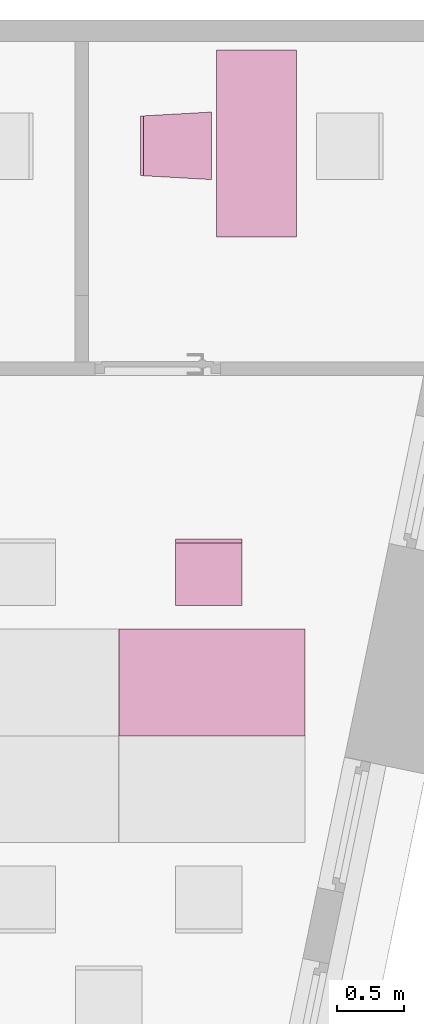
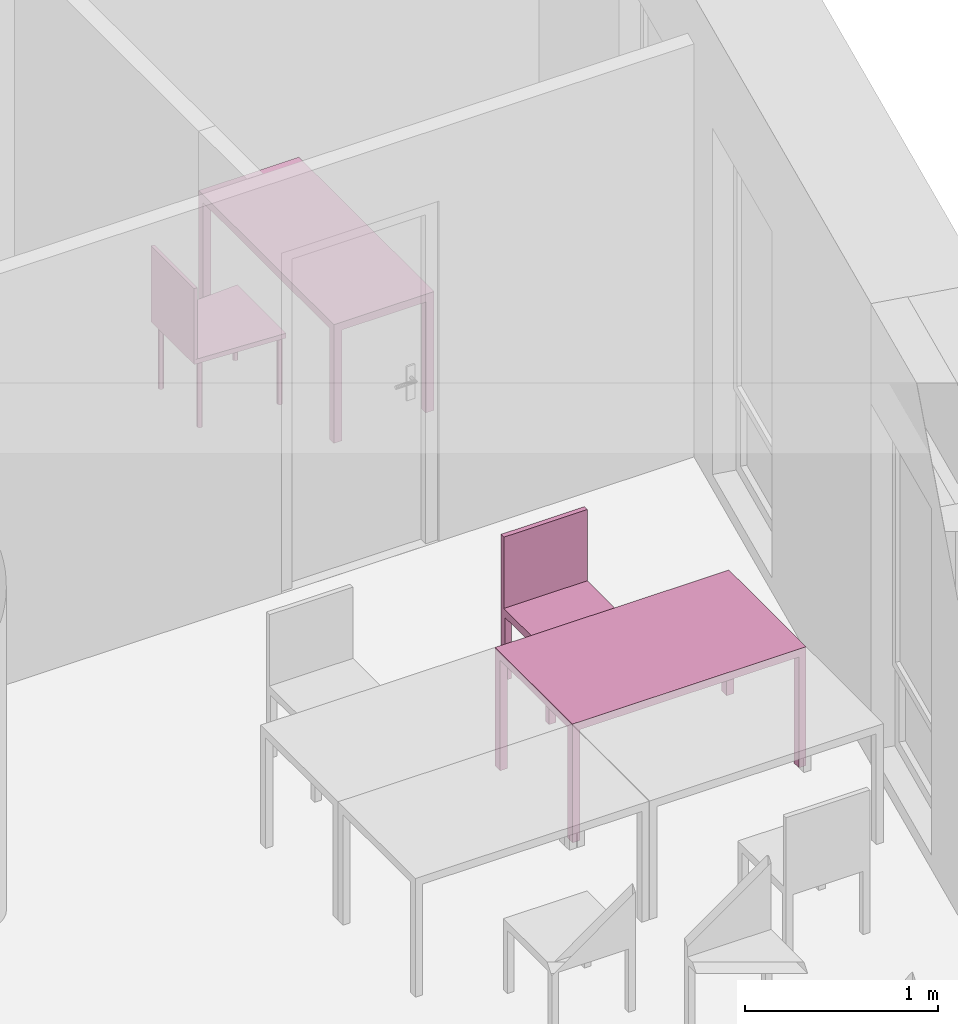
"""IFC4 building model written with IfcOpenShell, lengths in metres."""

from ifc_helpers import new_model, entity, si_unit, converted_unit, derived_unit, frame, origin, place, context, subcontext, project, spatial, faceted_brep, element, save


model = new_model("IFC4")

# Units and contexts
model_context = context("Model", 3, precision=1e-05, world=origin())
body_context = subcontext(model_context, "Body", "Model", "MODEL_VIEW")
ifc_project = project(units=[si_unit("LENGTHUNIT", "METRE"), si_unit("AREAUNIT", "SQUARE_METRE"), si_unit("VOLUMEUNIT", "CUBIC_METRE"), si_unit("MASSUNIT", "GRAM", prefix="KILO"), converted_unit("PLANEANGLEUNIT", "DEGREE", entity("IfcPlaneAngleMeasure", 0.0174532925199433), si_unit("PLANEANGLEUNIT", "RADIAN"), dimensions=[0, 0, 0, 0, 0, 0, 0]), derived_unit("THERMALTRANSMITTANCEUNIT", [(si_unit("POWERUNIT", "WATT"), 1), (si_unit("THERMODYNAMICTEMPERATUREUNIT", "KELVIN"), -1), (si_unit("LENGTHUNIT", "METRE"), -2)]), derived_unit("VOLUMETRICFLOWRATEUNIT", [(si_unit("LENGTHUNIT", "METRE"), 3), (converted_unit("TIMEUNIT", "hour", entity("IfcTimeMeasure", 3600.0), si_unit("TIMEUNIT", "SECOND"), dimensions=[0, 0, 1, 0, 0, 0, 0]), -1), (si_unit("LENGTHUNIT", "METRE"), -1)])], contexts=[model_context])

# Building, storeys
building_placement = place(None, origin())
building = spatial("IfcBuilding", under=ifc_project, at=building_placement, Name="HABITATGE PLURIFAMILIAR", CompositionType="ELEMENT")
storey_1_placement = place(building_placement, frame((0.0, 0.0, 18.29)))
storey_1 = spatial("IfcBuildingStorey", under=building, at=storey_1_placement, Name="PLANTA CINQUENA", CompositionType="ELEMENT", Elevation=18.29)
storey_2_placement = place(storey_1_placement, frame((0.0, 0.0, 15.28)))
storey_2 = spatial("IfcBuildingStorey", under=storey_1, at=storey_2_placement, Name="NOU", CompositionType="PARTIAL")

# Furniture
furniture_1_placement = place(storey_2_placement, frame((424.00800410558, 22.8623892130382, -15.28)))
element("IfcFurniture", 1, at=furniture_1_placement, inside=storey_2, Name="Taula 140X80_P5", context=body_context, shape_type="Brep", body=[
    faceted_brep([(0.04375, 0.05, 0.0), (0.0, 0.05, 0.0), (0.0, 0.0, 0.0), (0.04375, 0.0, 0.0), (0.04375, 0.0, 0.7), (0.0, 0.0, 0.7), (0.0, 0.05, 0.7), (0.04375, 0.05, 0.7)], [[[0, 1, 2, 3]], [[4, 5, 6, 7]], [[3, 4, 7, 0]], [[2, 5, 4, 3]], [[1, 6, 5, 2]], [[0, 7, 6, 1]]], orient=[[False], [False], [False], [False], [False], [False]]),
    faceted_brep([(0.04375, 0.800069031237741, 0.0), (0.0, 0.800069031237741, 0.0), (0.0, 0.750069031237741, 0.0), (0.04375, 0.750069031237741, 0.0), (0.04375, 0.750069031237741, 0.7), (0.0, 0.750069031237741, 0.7), (0.0, 0.800069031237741, 0.7), (0.04375, 0.800069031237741, 0.7)], [[[0, 1, 2, 3]], [[4, 5, 6, 7]], [[3, 4, 7, 0]], [[2, 5, 4, 3]], [[1, 6, 5, 2]], [[0, 7, 6, 1]]], orient=[[False], [False], [False], [False], [False], [False]]),
    faceted_brep([(1.39732768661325, 0.800069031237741, 0.7), (0.0, 0.800069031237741, 0.7), (0.0, 0.0, 0.7), (1.39732768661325, 0.0, 0.7), (1.39732768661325, 0.0, 0.75), (0.0, 0.0, 0.75), (0.0, 0.800069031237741, 0.75), (1.39732768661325, 0.800069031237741, 0.75)], [[[0, 1, 2, 3]], [[4, 5, 6, 7]], [[3, 4, 7, 0]], [[2, 5, 4, 3]], [[1, 6, 5, 2]], [[0, 7, 6, 1]]], orient=[[False], [False], [False], [False], [False], [False]]),
    faceted_brep([(1.39732768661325, 0.05, 0.0), (1.35357768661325, 0.05, 0.0), (1.35357768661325, 0.0, 0.0), (1.39732768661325, 0.0, 0.0), (1.39732768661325, 0.0, 0.7), (1.35357768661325, 0.0, 0.7), (1.35357768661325, 0.05, 0.7), (1.39732768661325, 0.05, 0.7)], [[[0, 1, 2, 3]], [[4, 5, 6, 7]], [[3, 4, 7, 0]], [[2, 5, 4, 3]], [[1, 6, 5, 2]], [[0, 7, 6, 1]]], orient=[[False], [False], [False], [False], [False], [False]]),
    faceted_brep([(1.39732768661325, 0.800069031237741, 0.0), (1.35357768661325, 0.800069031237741, 0.0), (1.35357768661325, 0.750069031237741, 0.0), (1.39732768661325, 0.750069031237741, 0.0), (1.39732768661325, 0.750069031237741, 0.7), (1.35357768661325, 0.750069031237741, 0.7), (1.35357768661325, 0.800069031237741, 0.7), (1.39732768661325, 0.800069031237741, 0.7)], [[[0, 1, 2, 3]], [[4, 5, 6, 7]], [[3, 4, 7, 0]], [[2, 5, 4, 3]], [[1, 6, 5, 2]], [[0, 7, 6, 1]]], orient=[[False], [False], [False], [False], [False], [False]]),
])
furniture_2_placement = place(storey_2_placement, frame((424.433033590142, 23.8391435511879, -15.2746385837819)))
element("IfcFurniture", 2, at=furniture_2_placement, inside=storey_2, Name="Cadira d'Oficina_P5", context=body_context, shape_type="Brep", body=[
    faceted_brep([(0.0, 0.0, 0.4), (0.5, 0.0, 0.4), (0.5, 0.500000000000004, 0.4), (0.0, 0.5, 0.4), (0.0, 0.5, 0.45), (0.5, 0.500000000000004, 0.45), (0.5, 0.0, 0.45), (0.0, 0.0, 0.45)], [[[0, 1, 2, 3]], [[4, 5, 6, 7]], [[3, 4, 7, 0]], [[2, 5, 4, 3]], [[1, 6, 5, 2]], [[0, 7, 6, 1]]], orient=[[False], [False], [False], [False], [False], [False]]),
    faceted_brep([(0.5, 0.460000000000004, 0.0), (0.5, 0.500000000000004, 0.0), (0.46, 0.5, 0.0), (0.46, 0.46, 0.0), (0.46, 0.46, 0.4), (0.46, 0.5, 0.4), (0.5, 0.500000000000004, 0.4), (0.5, 0.460000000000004, 0.4)], [[[0, 1, 2, 3]], [[4, 5, 6, 7]], [[3, 4, 7, 0]], [[2, 5, 4, 3]], [[1, 6, 5, 2]], [[0, 7, 6, 1]]], orient=[[False], [False], [False], [False], [False], [False]]),
    faceted_brep([(0.5, 0.0, 0.0), (0.5, 0.0400000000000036, 0.0), (0.46, 0.04, 0.0), (0.46, 0.0, 0.0), (0.46, 0.0, 0.4), (0.46, 0.04, 0.4), (0.5, 0.0400000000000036, 0.4), (0.5, 0.0, 0.4)], [[[0, 1, 2, 3]], [[4, 5, 6, 7]], [[3, 4, 7, 0]], [[2, 5, 4, 3]], [[1, 6, 5, 2]], [[0, 7, 6, 1]]], orient=[[False], [False], [False], [False], [False], [False]]),
    faceted_brep([(0.04, 0.46, 0.0), (0.04, 0.5, 0.0), (0.0, 0.5, 0.0), (0.0, 0.46, 0.0), (0.0, 0.46, 0.4), (0.0, 0.5, 0.4), (0.04, 0.5, 0.4), (0.04, 0.46, 0.4)], [[[0, 1, 2, 3]], [[4, 5, 6, 7]], [[3, 4, 7, 0]], [[2, 5, 4, 3]], [[1, 6, 5, 2]], [[0, 7, 6, 1]]], orient=[[False], [False], [False], [False], [False], [False]]),
    faceted_brep([(0.04, 0.0, 0.0), (0.04, 0.04, 0.0), (0.0, 0.04, 0.0), (0.0, 0.0, 0.0), (0.0, 0.0, 0.4), (0.0, 0.04, 0.4), (0.04, 0.04, 0.4), (0.04, 0.0, 0.4)], [[[0, 1, 2, 3]], [[4, 5, 6, 7]], [[3, 4, 7, 0]], [[2, 5, 4, 3]], [[1, 6, 5, 2]], [[0, 7, 6, 1]]], orient=[[False], [False], [False], [False], [False], [False]]),
    faceted_brep([(0.5, 0.470000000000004, 0.45), (0.5, 0.500000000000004, 0.45), (0.0, 0.5, 0.45), (0.0, 0.47, 0.45), (0.0, 0.47, 0.9), (0.0, 0.5, 0.9), (0.5, 0.500000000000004, 0.9), (0.5, 0.470000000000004, 0.9)], [[[0, 1, 2, 3]], [[4, 5, 6, 7]], [[3, 4, 7, 0]], [[2, 5, 4, 3]], [[1, 6, 5, 2]], [[0, 7, 6, 1]]], orient=[[False], [False], [False], [False], [False], [False]]),
])
furniture_3_placement = place(storey_2_placement, frame((424.741021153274, 26.6019788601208, -15.28)))
element("IfcFurniture", 3, at=furniture_3_placement, inside=storey_2, Name="Taula 140X60_P5", context=body_context, shape_type="Brep", body=[
    faceted_brep([(0.05, 1.35625000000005, 0.0), (0.05, 1.40000000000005, 0.0), (0.0, 1.40000000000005, 0.0), (0.0, 1.35625000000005, 0.0), (0.0, 1.35625000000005, 0.7), (0.0, 1.40000000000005, 0.7), (0.05, 1.40000000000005, 0.7), (0.05, 1.35625000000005, 0.7)], [[[0, 1, 2, 3]], [[4, 5, 6, 7]], [[3, 4, 7, 0]], [[2, 5, 4, 3]], [[1, 6, 5, 2]], [[0, 7, 6, 1]]], orient=[[False], [False], [False], [False], [False], [False]]),
    faceted_brep([(0.600000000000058, 0.0, 0.7), (0.600000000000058, 1.4, 0.7), (0.0, 1.40000000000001, 0.7), (0.0, 0.0, 0.7), (0.0, 0.0, 0.75), (0.0, 1.40000000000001, 0.75), (0.600000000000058, 1.4, 0.75), (0.600000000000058, 0.0, 0.75)], [[[0, 1, 2, 3]], [[4, 5, 6, 7]], [[3, 4, 7, 0]], [[2, 5, 4, 3]], [[1, 6, 5, 2]], [[0, 7, 6, 1]]], orient=[[False], [False], [False], [False], [False], [False]]),
    faceted_brep([(0.0500000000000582, 0.0, 0.0), (0.0500000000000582, 0.0437500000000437, 0.0), (0.0, 0.0437500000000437, 0.0), (0.0, 0.0, 0.0), (0.0, 0.0, 0.7), (0.0, 0.0437500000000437, 0.7), (0.0500000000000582, 0.0437500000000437, 0.7), (0.0500000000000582, 0.0, 0.7)], [[[0, 1, 2, 3]], [[4, 5, 6, 7]], [[3, 4, 7, 0]], [[2, 5, 4, 3]], [[1, 6, 5, 2]], [[0, 7, 6, 1]]], orient=[[False], [False], [False], [False], [False], [False]]),
    faceted_brep([(0.600000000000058, 1.35625000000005, 0.0), (0.600000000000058, 1.40000000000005, 0.0), (0.550000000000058, 1.40000000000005, 0.0), (0.550000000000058, 1.35625000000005, 0.0), (0.550000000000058, 1.35625000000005, 0.7), (0.550000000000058, 1.40000000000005, 0.7), (0.600000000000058, 1.40000000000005, 0.7), (0.600000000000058, 1.35625000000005, 0.7)], [[[0, 1, 2, 3]], [[4, 5, 6, 7]], [[3, 4, 7, 0]], [[2, 5, 4, 3]], [[1, 6, 5, 2]], [[0, 7, 6, 1]]], orient=[[False], [False], [False], [False], [False], [False]]),
    faceted_brep([(0.600000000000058, 0.0, 0.0), (0.600000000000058, 0.0437500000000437, 0.0), (0.550000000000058, 0.0437500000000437, 0.0), (0.550000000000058, 0.0, 0.0), (0.550000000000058, 0.0, 0.7), (0.550000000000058, 0.0437500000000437, 0.7), (0.600000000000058, 0.0437500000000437, 0.7), (0.600000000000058, 0.0, 0.7)], [[[0, 1, 2, 3]], [[4, 5, 6, 7]], [[3, 4, 7, 0]], [[2, 5, 4, 3]], [[1, 6, 5, 2]], [[0, 7, 6, 1]]], orient=[[False], [False], [False], [False], [False], [False]]),
])
furniture_4_placement = place(storey_2_placement, frame((424.171553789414, 27.0320258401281, -15.28)))
element("IfcFurniture", 4, at=furniture_4_placement, inside=storey_2, Name="Cadira confident_P5", context=body_context, shape_type="Brep", body=[
    faceted_brep([(0.522448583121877, 0.0242257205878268, 0.0), (0.522221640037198, 0.0268196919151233, 0.0), (0.521547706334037, 0.0293348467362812, 0.0), (0.520447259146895, 0.0316947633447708, 0.0), (0.51895373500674, 0.0338277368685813, 0.0), (0.517112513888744, 0.0356689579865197, 0.0), (0.514979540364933, 0.0371624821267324, 0.0), (0.512619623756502, 0.0382629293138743, 0.0), (0.510104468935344, 0.0389368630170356, 0.0), (0.507510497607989, 0.0391638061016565, 0.0), (0.504916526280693, 0.0389368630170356, 0.0), (0.502401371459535, 0.0382629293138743, 0.0), (0.500041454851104, 0.0371624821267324, 0.0), (0.497908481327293, 0.0356689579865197, 0.0), (0.496067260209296, 0.0338277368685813, 0.0), (0.494573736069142, 0.0316947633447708, 0.0), (0.493473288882, 0.0293348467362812, 0.0), (0.492799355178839, 0.0268196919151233, 0.0), (0.49257241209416, 0.0242257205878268, 0.0), (0.492799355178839, 0.0216317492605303, 0.0), (0.493473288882, 0.0191165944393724, 0.0), (0.494573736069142, 0.0167566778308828, 0.0), (0.496067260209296, 0.0146237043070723, 0.0), (0.497908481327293, 0.0127824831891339, 0.0), (0.500041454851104, 0.0112889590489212, 0.0), (0.502401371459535, 0.0101885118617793, 0.0), (0.504916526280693, 0.00951457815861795, 0.0), (0.507510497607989, 0.00928763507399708, 0.0), (0.510104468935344, 0.00951457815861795, 0.0), (0.512619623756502, 0.0101885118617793, 0.0), (0.514979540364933, 0.0112889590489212, 0.0), (0.517112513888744, 0.0127824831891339, 0.0), (0.51895373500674, 0.0146237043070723, 0.0), (0.520447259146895, 0.0167566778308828, 0.0), (0.521547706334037, 0.0191165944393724, 0.0), (0.522221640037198, 0.0216317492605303, 0.0), (0.522448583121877, 0.0242257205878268, 0.448281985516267), (0.522221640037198, 0.0216317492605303, 0.448281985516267), (0.521547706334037, 0.0191165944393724, 0.448281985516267), (0.520447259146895, 0.0167566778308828, 0.448281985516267), (0.51895373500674, 0.0146237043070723, 0.448281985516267), (0.517112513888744, 0.0127824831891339, 0.448281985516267), (0.514979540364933, 0.0112889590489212, 0.448281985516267), (0.512619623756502, 0.0101885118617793, 0.448281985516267), (0.510104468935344, 0.00951457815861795, 0.448281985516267), (0.507510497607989, 0.00928763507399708, 0.448281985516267), (0.504916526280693, 0.00951457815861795, 0.448281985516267), (0.502401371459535, 0.0101885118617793, 0.448281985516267), (0.500041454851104, 0.0112889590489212, 0.448281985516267), (0.497908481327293, 0.0127824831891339, 0.448281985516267), (0.496067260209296, 0.0146237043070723, 0.448281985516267), (0.494573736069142, 0.0167566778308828, 0.448281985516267), (0.493473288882, 0.0191165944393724, 0.448281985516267), (0.492799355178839, 0.0216317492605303, 0.448281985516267), (0.49257241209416, 0.0242257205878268, 0.448281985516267), (0.492799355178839, 0.0268196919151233, 0.448281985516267), (0.493473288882, 0.0293348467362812, 0.448281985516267), (0.494573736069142, 0.0316947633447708, 0.448281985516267), (0.496067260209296, 0.0338277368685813, 0.448281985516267), (0.497908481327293, 0.0356689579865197, 0.448281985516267), (0.500041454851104, 0.0371624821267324, 0.448281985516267), (0.502401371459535, 0.0382629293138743, 0.448281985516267), (0.504916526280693, 0.0389368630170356, 0.448281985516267), (0.507510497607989, 0.0391638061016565, 0.448281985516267), (0.510104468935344, 0.0389368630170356, 0.448281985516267), (0.512619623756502, 0.0382629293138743, 0.448281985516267), (0.514979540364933, 0.0371624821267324, 0.448281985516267), (0.517112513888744, 0.0356689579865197, 0.448281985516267), (0.51895373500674, 0.0338277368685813, 0.448281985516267), (0.520447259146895, 0.0316947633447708, 0.448281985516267), (0.521547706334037, 0.0293348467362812, 0.448281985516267), (0.522221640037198, 0.0268196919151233, 0.448281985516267)], [[[0, 1, 2, 3, 4, 5, 6, 7, 8, 9, 10, 11, 12, 13, 14, 15, 16, 17, 18, 19, 20, 21, 22, 23, 24, 25, 26, 27, 28, 29, 30, 31, 32, 33, 34, 35]], [[36, 37, 38, 39, 40, 41, 42, 43, 44, 45, 46, 47, 48, 49, 50, 51, 52, 53, 54, 55, 56, 57, 58, 59, 60, 61, 62, 63, 64, 65, 66, 67, 68, 69, 70, 71]], [[1, 0, 36, 71]], [[2, 1, 71, 70]], [[3, 2, 70, 69]], [[4, 3, 69, 68]], [[5, 4, 68, 67]], [[6, 5, 67, 66]], [[7, 6, 66, 65]], [[8, 7, 65, 64]], [[9, 8, 64, 63]], [[10, 9, 63, 62]], [[11, 10, 62, 61]], [[12, 11, 61, 60]], [[13, 12, 60, 59]], [[14, 13, 59, 58]], [[15, 14, 58, 57]], [[16, 15, 57, 56]], [[17, 16, 56, 55]], [[18, 17, 55, 54]], [[19, 18, 54, 53]], [[20, 19, 53, 52]], [[21, 20, 52, 51]], [[22, 21, 51, 50]], [[23, 22, 50, 49]], [[24, 23, 49, 48]], [[25, 24, 48, 47]], [[26, 25, 47, 46]], [[27, 26, 46, 45]], [[28, 27, 45, 44]], [[29, 28, 44, 43]], [[30, 29, 43, 42]], [[31, 30, 42, 41]], [[32, 31, 41, 40]], [[33, 32, 40, 39]], [[34, 33, 39, 38]], [[35, 34, 38, 37]], [[0, 35, 37, 36]]], orient=[[False], [False], [False], [False], [False], [False], [False], [False], [False], [False], [False], [False], [False], [False], [False], [False], [False], [False], [False], [False], [False], [False], [False], [False], [False], [False], [False], [False], [False], [False], [False], [False], [False], [False], [False], [False], [False], [False]]),
    faceted_brep([(0.0600415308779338, 0.0518637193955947, 0.0), (0.0598145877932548, 0.0544576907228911, 0.0), (0.0591406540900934, 0.056972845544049, 0.0), (0.0580402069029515, 0.0593327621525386, 0.0), (0.056546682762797, 0.0614657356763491, 0.0), (0.0547054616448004, 0.0633069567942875, 0.0), (0.0525724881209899, 0.0648004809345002, 0.0), (0.0502125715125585, 0.0659009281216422, 0.0), (0.0476974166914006, 0.0665748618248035, 0.0), (0.0451034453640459, 0.0668018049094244, 0.0), (0.0425094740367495, 0.0665748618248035, 0.0), (0.0399943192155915, 0.0659009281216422, 0.0), (0.0376344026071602, 0.0648004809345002, 0.0), (0.0355014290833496, 0.0633069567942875, 0.0), (0.033660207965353, 0.0614657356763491, 0.0), (0.0321666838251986, 0.0593327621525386, 0.0), (0.0310662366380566, 0.056972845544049, 0.0), (0.0303923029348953, 0.0544576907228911, 0.0), (0.0301653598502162, 0.0518637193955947, 0.0), (0.0303923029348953, 0.0492697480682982, 0.0), (0.0310662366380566, 0.0467545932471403, 0.0), (0.0321666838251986, 0.0443946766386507, 0.0), (0.033660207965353, 0.0422617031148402, 0.0), (0.0355014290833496, 0.0404204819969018, 0.0), (0.0376344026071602, 0.0389269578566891, 0.0), (0.0399943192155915, 0.0378265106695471, 0.0), (0.0425094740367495, 0.0371525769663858, 0.0), (0.0451034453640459, 0.036925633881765, 0.0), (0.0476974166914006, 0.0371525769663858, 0.0), (0.0502125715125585, 0.0378265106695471, 0.0), (0.0525724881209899, 0.0389269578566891, 0.0), (0.0547054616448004, 0.0404204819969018, 0.0), (0.056546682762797, 0.0422617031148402, 0.0), (0.0580402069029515, 0.0443946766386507, 0.0), (0.0591406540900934, 0.0467545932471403, 0.0), (0.0598145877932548, 0.0492697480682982, 0.0), (0.0600415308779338, 0.0518637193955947, 0.448281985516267), (0.0598145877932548, 0.0492697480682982, 0.448281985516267), (0.0591406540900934, 0.0467545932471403, 0.448281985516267), (0.0580402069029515, 0.0443946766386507, 0.448281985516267), (0.056546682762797, 0.0422617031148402, 0.448281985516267), (0.0547054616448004, 0.0404204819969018, 0.448281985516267), (0.0525724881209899, 0.0389269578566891, 0.448281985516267), (0.0502125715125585, 0.0378265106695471, 0.448281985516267), (0.0476974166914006, 0.0371525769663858, 0.448281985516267), (0.0451034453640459, 0.036925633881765, 0.448281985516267), (0.0425094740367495, 0.0371525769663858, 0.448281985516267), (0.0399943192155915, 0.0378265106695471, 0.448281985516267), (0.0376344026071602, 0.0389269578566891, 0.448281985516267), (0.0355014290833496, 0.0404204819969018, 0.448281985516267), (0.033660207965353, 0.0422617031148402, 0.448281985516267), (0.0321666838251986, 0.0443946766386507, 0.448281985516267), (0.0310662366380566, 0.0467545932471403, 0.448281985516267), (0.0303923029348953, 0.0492697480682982, 0.448281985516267), (0.0301653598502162, 0.0518637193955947, 0.448281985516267), (0.0303923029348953, 0.0544576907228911, 0.448281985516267), (0.0310662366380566, 0.056972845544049, 0.448281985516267), (0.0321666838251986, 0.0593327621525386, 0.448281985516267), (0.033660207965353, 0.0614657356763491, 0.448281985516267), (0.0355014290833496, 0.0633069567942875, 0.448281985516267), (0.0376344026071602, 0.0648004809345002, 0.448281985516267), (0.0399943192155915, 0.0659009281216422, 0.448281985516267), (0.0425094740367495, 0.0665748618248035, 0.448281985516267), (0.0451034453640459, 0.0668018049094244, 0.448281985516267), (0.0476974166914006, 0.0665748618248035, 0.448281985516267), (0.0502125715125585, 0.0659009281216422, 0.448281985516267), (0.0525724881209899, 0.0648004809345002, 0.448281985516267), (0.0547054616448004, 0.0633069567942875, 0.448281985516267), (0.056546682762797, 0.0614657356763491, 0.448281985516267), (0.0580402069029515, 0.0593327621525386, 0.448281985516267), (0.0591406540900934, 0.056972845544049, 0.448281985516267), (0.0598145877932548, 0.0544576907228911, 0.448281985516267)], [[[0, 1, 2, 3, 4, 5, 6, 7, 8, 9, 10, 11, 12, 13, 14, 15, 16, 17, 18, 19, 20, 21, 22, 23, 24, 25, 26, 27, 28, 29, 30, 31, 32, 33, 34, 35]], [[36, 37, 38, 39, 40, 41, 42, 43, 44, 45, 46, 47, 48, 49, 50, 51, 52, 53, 54, 55, 56, 57, 58, 59, 60, 61, 62, 63, 64, 65, 66, 67, 68, 69, 70, 71]], [[1, 0, 36, 71]], [[2, 1, 71, 70]], [[3, 2, 70, 69]], [[4, 3, 69, 68]], [[5, 4, 68, 67]], [[6, 5, 67, 66]], [[7, 6, 66, 65]], [[8, 7, 65, 64]], [[9, 8, 64, 63]], [[10, 9, 63, 62]], [[11, 10, 62, 61]], [[12, 11, 61, 60]], [[13, 12, 60, 59]], [[14, 13, 59, 58]], [[15, 14, 58, 57]], [[16, 15, 57, 56]], [[17, 16, 56, 55]], [[18, 17, 55, 54]], [[19, 18, 54, 53]], [[20, 19, 53, 52]], [[21, 20, 52, 51]], [[22, 21, 51, 50]], [[23, 22, 50, 49]], [[24, 23, 49, 48]], [[25, 24, 48, 47]], [[26, 25, 47, 46]], [[27, 26, 46, 45]], [[28, 27, 45, 44]], [[29, 28, 44, 43]], [[30, 29, 43, 42]], [[31, 30, 42, 41]], [[32, 31, 41, 40]], [[33, 32, 40, 39]], [[34, 33, 39, 38]], [[35, 34, 38, 37]], [[0, 35, 37, 36]]], orient=[[False], [False], [False], [False], [False], [False], [False], [False], [False], [False], [False], [False], [False], [False], [False], [False], [False], [False], [False], [False], [False], [False], [False], [False], [False], [False], [False], [False], [False], [False], [False], [False], [False], [False], [False], [False], [False], [False]]),
    faceted_brep([(0.522448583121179, 0.484225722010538, 0.0), (0.5222216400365, 0.486819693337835, 0.0), (0.521547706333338, 0.489334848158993, 0.0), (0.520447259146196, 0.491694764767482, 0.0), (0.518953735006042, 0.493827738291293, 0.0), (0.517112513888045, 0.495668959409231, 0.0), (0.514979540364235, 0.497162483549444, 0.0), (0.512619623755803, 0.498262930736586, 0.0), (0.510104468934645, 0.498936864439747, 0.0), (0.507510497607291, 0.499163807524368, 0.0), (0.504916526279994, 0.498936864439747, 0.0), (0.502401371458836, 0.498262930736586, 0.0), (0.500041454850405, 0.497162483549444, 0.0), (0.497908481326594, 0.495668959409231, 0.0), (0.496067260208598, 0.493827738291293, 0.0), (0.494573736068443, 0.491694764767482, 0.0), (0.493473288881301, 0.489334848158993, 0.0), (0.49279935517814, 0.486819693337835, 0.0), (0.492572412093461, 0.484225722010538, 0.0), (0.49279935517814, 0.481631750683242, 0.0), (0.493473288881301, 0.479116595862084, 0.0), (0.494573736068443, 0.476756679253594, 0.0), (0.496067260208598, 0.474623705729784, 0.0), (0.497908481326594, 0.472782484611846, 0.0), (0.500041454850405, 0.471288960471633, 0.0), (0.502401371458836, 0.470188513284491, 0.0), (0.504916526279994, 0.46951457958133, 0.0), (0.507510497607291, 0.469287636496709, 0.0), (0.510104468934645, 0.46951457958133, 0.0), (0.512619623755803, 0.470188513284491, 0.0), (0.514979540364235, 0.471288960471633, 0.0), (0.517112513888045, 0.472782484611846, 0.0), (0.518953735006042, 0.474623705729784, 0.0), (0.520447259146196, 0.476756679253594, 0.0), (0.521547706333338, 0.479116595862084, 0.0), (0.5222216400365, 0.481631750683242, 0.0), (0.522448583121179, 0.484225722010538, 0.448281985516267), (0.5222216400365, 0.481631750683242, 0.448281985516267), (0.521547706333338, 0.479116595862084, 0.448281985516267), (0.520447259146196, 0.476756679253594, 0.448281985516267), (0.518953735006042, 0.474623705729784, 0.448281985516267), (0.517112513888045, 0.472782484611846, 0.448281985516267), (0.514979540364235, 0.471288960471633, 0.448281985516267), (0.512619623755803, 0.470188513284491, 0.448281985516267), (0.510104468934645, 0.46951457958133, 0.448281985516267), (0.507510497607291, 0.469287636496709, 0.448281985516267), (0.504916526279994, 0.46951457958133, 0.448281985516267), (0.502401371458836, 0.470188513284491, 0.448281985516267), (0.500041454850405, 0.471288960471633, 0.448281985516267), (0.497908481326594, 0.472782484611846, 0.448281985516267), (0.496067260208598, 0.474623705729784, 0.448281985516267), (0.494573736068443, 0.476756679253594, 0.448281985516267), (0.493473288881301, 0.479116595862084, 0.448281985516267), (0.49279935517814, 0.481631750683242, 0.448281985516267), (0.492572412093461, 0.484225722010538, 0.448281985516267), (0.49279935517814, 0.486819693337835, 0.448281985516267), (0.493473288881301, 0.489334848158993, 0.448281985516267), (0.494573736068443, 0.491694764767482, 0.448281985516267), (0.496067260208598, 0.493827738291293, 0.448281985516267), (0.497908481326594, 0.495668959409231, 0.448281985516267), (0.500041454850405, 0.497162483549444, 0.448281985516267), (0.502401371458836, 0.498262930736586, 0.448281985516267), (0.504916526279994, 0.498936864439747, 0.448281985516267), (0.507510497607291, 0.499163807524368, 0.448281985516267), (0.510104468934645, 0.498936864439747, 0.448281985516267), (0.512619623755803, 0.498262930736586, 0.448281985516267), (0.514979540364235, 0.497162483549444, 0.448281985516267), (0.517112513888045, 0.495668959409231, 0.448281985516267), (0.518953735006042, 0.493827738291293, 0.448281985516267), (0.520447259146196, 0.491694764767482, 0.448281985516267), (0.521547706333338, 0.489334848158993, 0.448281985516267), (0.5222216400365, 0.486819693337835, 0.448281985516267)], [[[0, 1, 2, 3, 4, 5, 6, 7, 8, 9, 10, 11, 12, 13, 14, 15, 16, 17, 18, 19, 20, 21, 22, 23, 24, 25, 26, 27, 28, 29, 30, 31, 32, 33, 34, 35]], [[36, 37, 38, 39, 40, 41, 42, 43, 44, 45, 46, 47, 48, 49, 50, 51, 52, 53, 54, 55, 56, 57, 58, 59, 60, 61, 62, 63, 64, 65, 66, 67, 68, 69, 70, 71]], [[1, 0, 36, 71]], [[2, 1, 71, 70]], [[3, 2, 70, 69]], [[4, 3, 69, 68]], [[5, 4, 68, 67]], [[6, 5, 67, 66]], [[7, 6, 66, 65]], [[8, 7, 65, 64]], [[9, 8, 64, 63]], [[10, 9, 63, 62]], [[11, 10, 62, 61]], [[12, 11, 61, 60]], [[13, 12, 60, 59]], [[14, 13, 59, 58]], [[15, 14, 58, 57]], [[16, 15, 57, 56]], [[17, 16, 56, 55]], [[18, 17, 55, 54]], [[19, 18, 54, 53]], [[20, 19, 53, 52]], [[21, 20, 52, 51]], [[22, 21, 51, 50]], [[23, 22, 50, 49]], [[24, 23, 49, 48]], [[25, 24, 48, 47]], [[26, 25, 47, 46]], [[27, 26, 46, 45]], [[28, 27, 45, 44]], [[29, 28, 44, 43]], [[30, 29, 43, 42]], [[31, 30, 42, 41]], [[32, 31, 41, 40]], [[33, 32, 40, 39]], [[34, 33, 39, 38]], [[35, 34, 38, 37]], [[0, 35, 37, 36]]], orient=[[False], [False], [False], [False], [False], [False], [False], [False], [False], [False], [False], [False], [False], [False], [False], [False], [False], [False], [False], [False], [False], [False], [False], [False], [False], [False], [False], [False], [False], [False], [False], [False], [False], [False], [False], [False], [False], [False]]),
    faceted_brep([(0.0600415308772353, 0.451863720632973, 0.0), (0.0598145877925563, 0.45445769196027, 0.0), (0.059140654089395, 0.456972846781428, 0.0), (0.058040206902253, 0.459332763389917, 0.0), (0.0565466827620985, 0.461465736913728, 0.0), (0.0547054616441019, 0.463306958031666, 0.0), (0.0525724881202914, 0.464800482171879, 0.0), (0.05021257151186, 0.465900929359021, 0.0), (0.0476974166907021, 0.466574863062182, 0.0), (0.0451034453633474, 0.466801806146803, 0.0), (0.042509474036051, 0.466574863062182, 0.0), (0.039994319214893, 0.465900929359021, 0.0), (0.0376344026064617, 0.464800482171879, 0.0), (0.0355014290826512, 0.463306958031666, 0.0), (0.0336602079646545, 0.461465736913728, 0.0), (0.0321666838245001, 0.459332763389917, 0.0), (0.0310662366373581, 0.456972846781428, 0.0), (0.0303923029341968, 0.45445769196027, 0.0), (0.0301653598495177, 0.451863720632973, 0.0), (0.0303923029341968, 0.449269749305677, 0.0), (0.0310662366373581, 0.446754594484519, 0.0), (0.0321666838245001, 0.444394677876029, 0.0), (0.0336602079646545, 0.442261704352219, 0.0), (0.0355014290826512, 0.44042048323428, 0.0), (0.0376344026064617, 0.438926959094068, 0.0), (0.039994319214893, 0.437826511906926, 0.0), (0.042509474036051, 0.437152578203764, 0.0), (0.0451034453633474, 0.436925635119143, 0.0), (0.0476974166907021, 0.437152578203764, 0.0), (0.05021257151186, 0.437826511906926, 0.0), (0.0525724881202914, 0.438926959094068, 0.0), (0.0547054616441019, 0.44042048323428, 0.0), (0.0565466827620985, 0.442261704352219, 0.0), (0.058040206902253, 0.444394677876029, 0.0), (0.059140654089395, 0.446754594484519, 0.0), (0.0598145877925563, 0.449269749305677, 0.0), (0.0600415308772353, 0.451863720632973, 0.448281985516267), (0.0598145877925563, 0.449269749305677, 0.448281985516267), (0.059140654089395, 0.446754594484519, 0.448281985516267), (0.058040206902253, 0.444394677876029, 0.448281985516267), (0.0565466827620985, 0.442261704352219, 0.448281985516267), (0.0547054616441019, 0.44042048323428, 0.448281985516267), (0.0525724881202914, 0.438926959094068, 0.448281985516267), (0.05021257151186, 0.437826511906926, 0.448281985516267), (0.0476974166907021, 0.437152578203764, 0.448281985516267), (0.0451034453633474, 0.436925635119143, 0.448281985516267), (0.042509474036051, 0.437152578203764, 0.448281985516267), (0.039994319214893, 0.437826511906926, 0.448281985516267), (0.0376344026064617, 0.438926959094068, 0.448281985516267), (0.0355014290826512, 0.44042048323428, 0.448281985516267), (0.0336602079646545, 0.442261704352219, 0.448281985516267), (0.0321666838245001, 0.444394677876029, 0.448281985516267), (0.0310662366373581, 0.446754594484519, 0.448281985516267), (0.0303923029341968, 0.449269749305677, 0.448281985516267), (0.0301653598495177, 0.451863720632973, 0.448281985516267), (0.0303923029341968, 0.45445769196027, 0.448281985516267), (0.0310662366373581, 0.456972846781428, 0.448281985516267), (0.0321666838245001, 0.459332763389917, 0.448281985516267), (0.0336602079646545, 0.461465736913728, 0.448281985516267), (0.0355014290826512, 0.463306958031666, 0.448281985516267), (0.0376344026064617, 0.464800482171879, 0.448281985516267), (0.039994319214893, 0.465900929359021, 0.448281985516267), (0.042509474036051, 0.466574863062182, 0.448281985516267), (0.0451034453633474, 0.466801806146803, 0.448281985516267), (0.0476974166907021, 0.466574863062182, 0.448281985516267), (0.05021257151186, 0.465900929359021, 0.448281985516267), (0.0525724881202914, 0.464800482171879, 0.448281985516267), (0.0547054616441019, 0.463306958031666, 0.448281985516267), (0.0565466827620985, 0.461465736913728, 0.448281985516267), (0.058040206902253, 0.459332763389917, 0.448281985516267), (0.059140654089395, 0.456972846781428, 0.448281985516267), (0.0598145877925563, 0.45445769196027, 0.448281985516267)], [[[0, 1, 2, 3, 4, 5, 6, 7, 8, 9, 10, 11, 12, 13, 14, 15, 16, 17, 18, 19, 20, 21, 22, 23, 24, 25, 26, 27, 28, 29, 30, 31, 32, 33, 34, 35]], [[36, 37, 38, 39, 40, 41, 42, 43, 44, 45, 46, 47, 48, 49, 50, 51, 52, 53, 54, 55, 56, 57, 58, 59, 60, 61, 62, 63, 64, 65, 66, 67, 68, 69, 70, 71]], [[1, 0, 36, 71]], [[2, 1, 71, 70]], [[3, 2, 70, 69]], [[4, 3, 69, 68]], [[5, 4, 68, 67]], [[6, 5, 67, 66]], [[7, 6, 66, 65]], [[8, 7, 65, 64]], [[9, 8, 64, 63]], [[10, 9, 63, 62]], [[11, 10, 62, 61]], [[12, 11, 61, 60]], [[13, 12, 60, 59]], [[14, 13, 59, 58]], [[15, 14, 58, 57]], [[16, 15, 57, 56]], [[17, 16, 56, 55]], [[18, 17, 55, 54]], [[19, 18, 54, 53]], [[20, 19, 53, 52]], [[21, 20, 52, 51]], [[22, 21, 51, 50]], [[23, 22, 50, 49]], [[24, 23, 49, 48]], [[25, 24, 48, 47]], [[26, 25, 47, 46]], [[27, 26, 46, 45]], [[28, 27, 45, 44]], [[29, 28, 44, 43]], [[30, 29, 43, 42]], [[31, 30, 42, 41]], [[32, 31, 41, 40]], [[33, 32, 40, 39]], [[34, 33, 39, 38]], [[35, 34, 38, 37]], [[0, 35, 37, 36]]], orient=[[False], [False], [False], [False], [False], [False], [False], [False], [False], [False], [False], [False], [False], [False], [False], [False], [False], [False], [False], [False], [False], [False], [False], [False], [False], [False], [False], [False], [False], [False], [False], [False], [False], [False], [False], [False], [False], [False]]),
    faceted_brep([(0.0, 0.4765147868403, 0.41828198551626), (0.0, 0.0300000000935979, 0.41828198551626), (0.53260781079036, 0.0, 0.41828198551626), (0.532607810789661, 0.506514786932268, 0.41828198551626), (0.532607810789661, 0.506514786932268, 0.448281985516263), (0.53260781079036, 0.0, 0.448281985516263), (0.0, 0.0300000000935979, 0.448281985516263), (0.0, 0.4765147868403, 0.448281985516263)], [[[0, 1, 2, 3]], [[4, 5, 6, 7]], [[3, 4, 7, 0]], [[2, 5, 4, 3]], [[1, 6, 5, 2]], [[0, 7, 6, 1]]], orient=[[False], [False], [False], [False], [False], [False]]),
    faceted_brep([(0.0200000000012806, 0.4765147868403, 0.448281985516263), (0.0, 0.4765147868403, 0.448281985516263), (0.0, 0.0300000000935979, 0.448281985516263), (0.0200000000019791, 0.0300000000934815, 0.448281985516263), (0.0200000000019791, 0.0300000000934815, 0.898281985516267), (0.0, 0.0300000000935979, 0.898281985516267), (0.0, 0.4765147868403, 0.898281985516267), (0.0200000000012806, 0.4765147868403, 0.898281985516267)], [[[0, 1, 2, 3]], [[4, 5, 6, 7]], [[3, 4, 7, 0]], [[2, 5, 4, 3]], [[1, 6, 5, 2]], [[0, 7, 6, 1]]], orient=[[False], [False], [False], [False], [False], [False]]),
])

save(model, "model.ifc")
